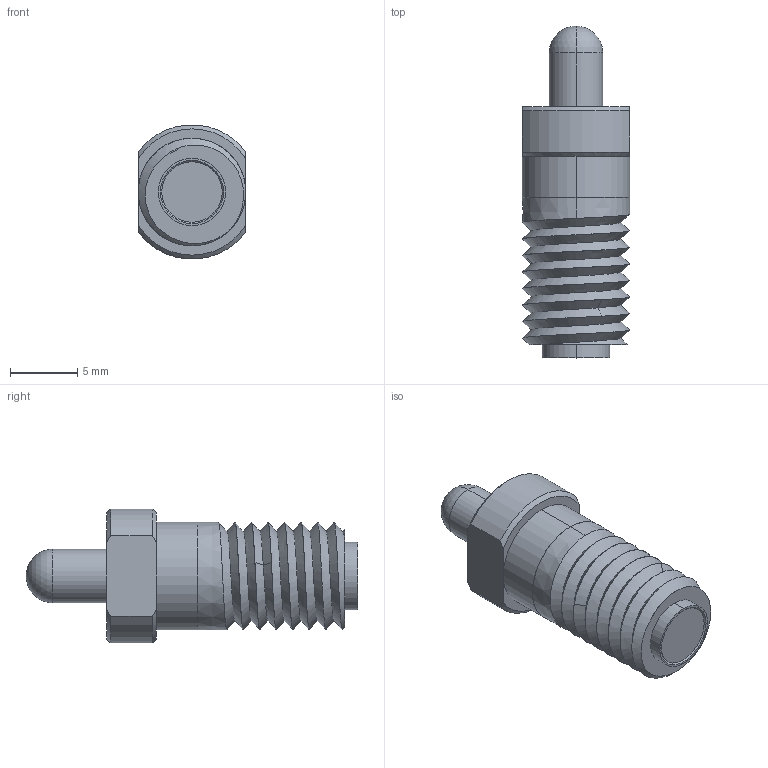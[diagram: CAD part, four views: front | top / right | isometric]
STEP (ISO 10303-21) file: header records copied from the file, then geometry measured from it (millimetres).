
FILE_DESCRIPTION((''),'2;1');
FILE_NAME('PRT0014','2023-06-02T14:15:36',('USER'),(''),'CREO PARAMETRIC BY PTC INC, 2020154','CREO PARAMETRIC BY PTC INC, 2020154','');
FILE_SCHEMA(('CONFIG_CONTROL_DESIGN'));
Length unit declared in the file: millimetre
Products named in the file (1): PRT0014
Bounding box: 8 x 24.7 x 9.96 mm (x, y, z)
Volume: 971.4 mm3; surface area: 755.6 mm2
Topology: 1 solids, 1 shells, 45 faces, 115 edges, 73 vertices
Faces by surface type: cone 20, plane 9, cylinder 8, bspline 6, sphere 2
Entity records: 2961 total; most frequent: CARTESIAN_POINT 1919, ORIENTED_EDGE 226, DIRECTION 177, EDGE_CURVE 113, VERTEX_POINT 73, AXIS2_PLACEMENT_3D 69, EDGE_LOOP 48, FACE_OUTER_BOUND 45
